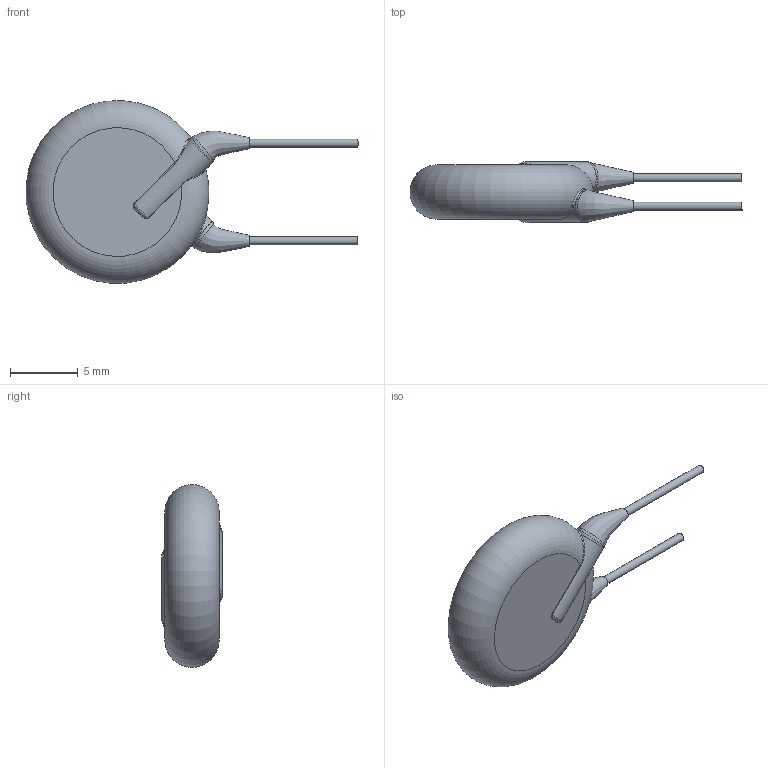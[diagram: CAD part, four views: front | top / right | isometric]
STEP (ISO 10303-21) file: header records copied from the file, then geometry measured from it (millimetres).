
FILE_DESCRIPTION(/* description */ (''),/* implementation_level */ '2;1');
FILE_NAME(/* name */ 'I:\Marketing\M6t1\3D-Models\Zchng-Werk-3\Upload for homepage\Roederstein\VKO\Y5U_300-440\VKO392MCQCD0KR\VKO392MCQCD0KR.stp',/* time_stamp */ '2018-03-19T14:20:22+01:00',/* author */ ('sheinrich'),/* organization */ (''),/* preprocessor_version */ 'ST-DEVELOPER v16.1',/* originating_system */ 'Autodesk Inventor 2016',/* authorisation */ '');
FILE_SCHEMA (('AUTOMOTIVE_DESIGN { 1 0 10303 214 3 1 1 }'));
Length unit declared in the file: centimetre
Products named in the file (1): VKO392MCQCD0KR
Bounding box: 24.49 x 4.5 x 13.47 mm (x, y, z)
Volume: 534.5 mm3; surface area: 451.3 mm2
Topology: 1 solids, 1 shells, 35 faces, 80 edges, 49 vertices
Faces by surface type: bspline 14, cylinder 8, torus 7, plane 6
Full cylindrical faces by diameter (mm): 0.6 x2
Entity records: 2071 total; most frequent: CARTESIAN_POINT 1320, ORIENTED_EDGE 152, DIRECTION 112, EDGE_CURVE 76, AXIS2_PLACEMENT_3D 52, VERTEX_POINT 48, EDGE_LOOP 40, B_SPLINE_CURVE_WITH_KNOTS 38
